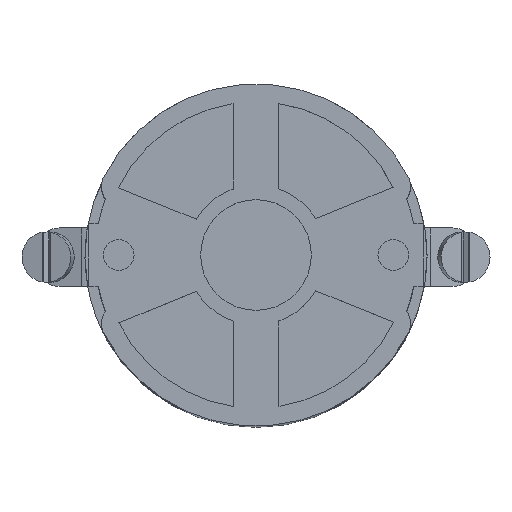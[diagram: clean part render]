
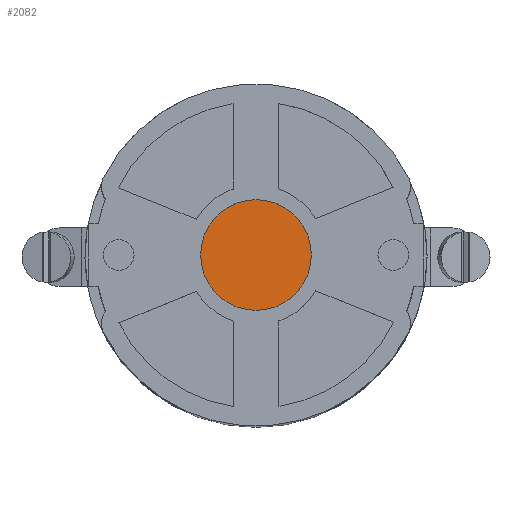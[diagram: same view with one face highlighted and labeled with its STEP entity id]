
A CAD part, top view. The second image highlights one B-rep face of the part: STEP entity #2082.
In plain terms, the highlighted planar face has unit normal (0, 0, 1).
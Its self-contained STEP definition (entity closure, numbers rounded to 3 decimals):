
#454=PLANE('',#22344);
#2082=ADVANCED_FACE('',(#3429),#454,.T.);
#3429=FACE_OUTER_BOUND('',#4463,.T.);
#4463=EDGE_LOOP('',(#8374));
#5630=CIRCLE('',#22343,6.15);
#8374=ORIENTED_EDGE('',*,*,#15658,.F.);
#13156=VERTEX_POINT('',#32132);
#15658=EDGE_CURVE('',#13156,#13156,#5630,.T.);
#22343=AXIS2_PLACEMENT_3D('',#32131,#25806,#25807);
#22344=AXIS2_PLACEMENT_3D('',#32133,#25808,#25809);
#25806=DIRECTION('',(0.,0.,-1.));
#25807=DIRECTION('',(1.,0.,0.));
#25808=DIRECTION('',(0.,0.,1.));
#25809=DIRECTION('',(1.,0.,0.));
#32131=CARTESIAN_POINT('',(0.,0.,79.7));
#32132=CARTESIAN_POINT('',(6.15,0.,79.7));
#32133=CARTESIAN_POINT('',(0.,0.,79.7));
